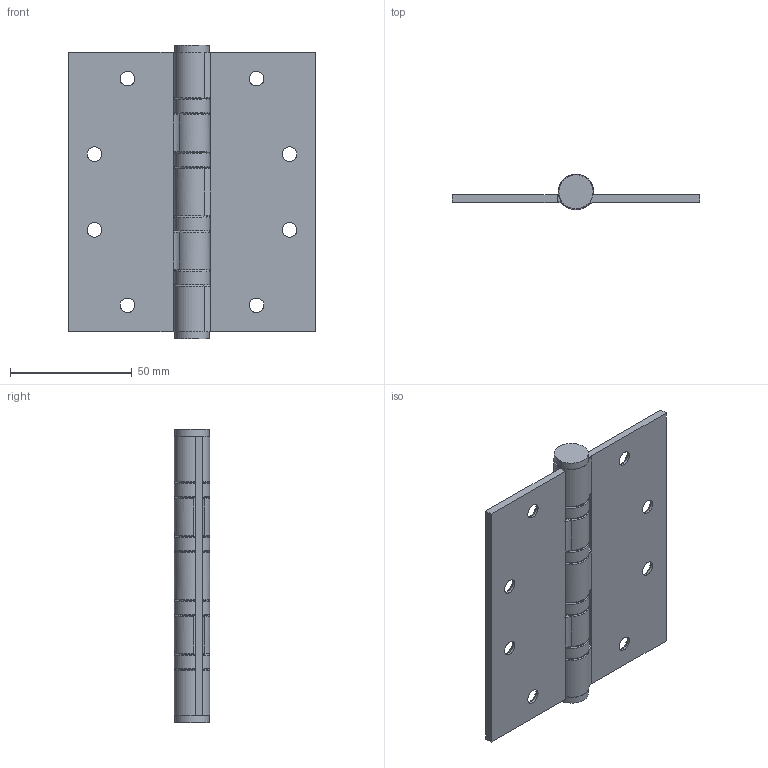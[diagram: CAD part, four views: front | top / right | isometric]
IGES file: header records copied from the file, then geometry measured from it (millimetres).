
Global section: file name: DR_HG114102-30KS; native system: Autodesk Inventor 2015; preprocessor: unknown; author: user; date: 20170817.090423; units: millimetre
Bounding box: 101.5 x 14.5 x 120.5 mm (x, y, z)
Volume: 48396 mm3; surface area: 34083.2 mm2
Topology: 3 solids, 3 shells, 119 faces, 323 edges, 220 vertices
Faces by surface type: bspline 119
